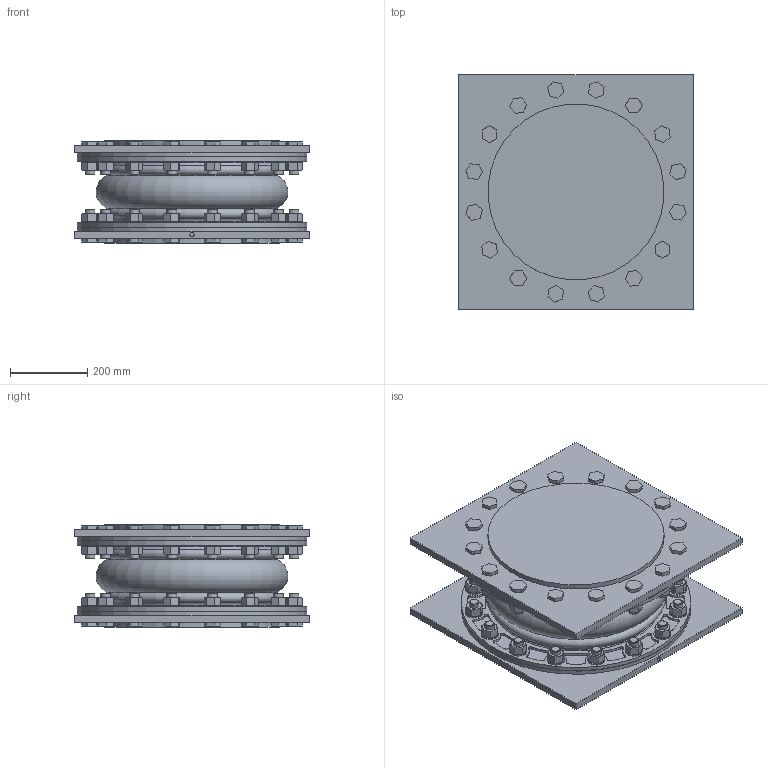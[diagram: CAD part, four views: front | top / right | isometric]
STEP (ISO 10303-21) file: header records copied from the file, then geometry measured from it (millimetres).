
FILE_DESCRIPTION(/* description */ (''),/* implementation_level */ '2;1');
FILE_NAME(/* name */ 'C:\Users\rramoutar\Desktop\New folder\451AS-16.stp',/* time_stamp */ '2016-01-15T14:36:59-05:00',/* author */ ('rramoutar'),/* organization */ ('Mason Industries Inc.'),/* preprocessor_version */ 'ST-DEVELOPER v15.6',/* originating_system */ 'Autodesk Inventor 2015',/* authorisation */ '');
FILE_SCHEMA (('CONFIG_CONTROL_DESIGN'));
Products named in the file (1): 451AS-16 ASSEMBLY A-34609
Bounding box: 609.6 x 609.6 x 266.7 mm (x, y, z)
Volume: 31063028 mm3; surface area: 5175878 mm2
Topology: 104 solids, 106 shells, 2248 faces, 4994 edges, 3024 vertices
Faces by surface type: plane 864, cylinder 818, cone 516, torus 50
Full cylindrical faces by diameter (mm): 11.112 x1, 12.7 x2, 21.971 x32, 25.4 x33, 25.959 x32, 26.975 x32, 28.575 x288, 38.1 x32, 44.45 x32, 154.051 x1, 168.275 x1, 406.4 x2, 430.403 x2, 438.15 x2, 457.2 x2, 596.9 x2, 596.946 x2
Entity records: 59683 total; most frequent: CARTESIAN_POINT 11085, DIRECTION 10077, ORIENTED_EDGE 8432, AXIS2_PLACEMENT_3D 4385, EDGE_CURVE 4216, EDGE_LOOP 3332, VERTEX_POINT 2926, STYLED_ITEM 2352
